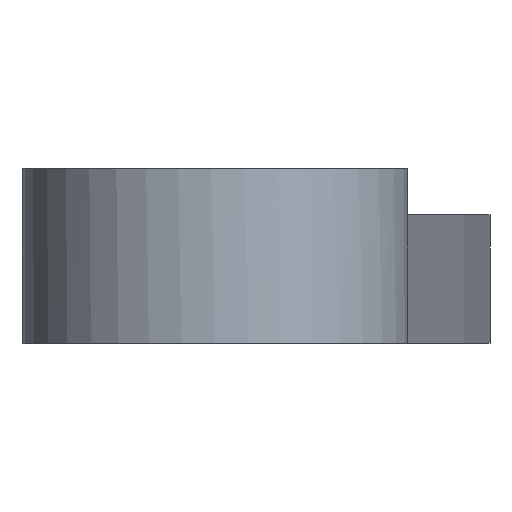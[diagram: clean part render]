
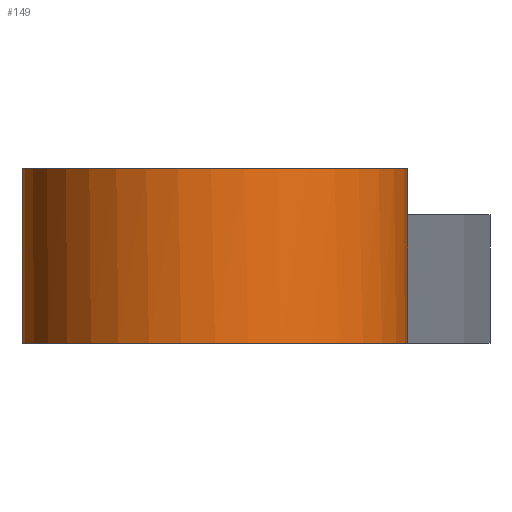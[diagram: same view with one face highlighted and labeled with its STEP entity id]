
A CAD part, front view. The second image highlights one B-rep face of the part: STEP entity #149.
In plain terms, the highlighted cylindrical face has radius 7.5 mm (diameter 15 mm), a partial arc.
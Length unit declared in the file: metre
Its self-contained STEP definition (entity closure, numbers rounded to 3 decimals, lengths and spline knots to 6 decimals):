
#18=LINE('',#260,#23);
#19=LINE('',#265,#24);
#20=LINE('',#270,#25);
#23=VECTOR('',#206,1.);
#24=VECTOR('',#209,1.);
#25=VECTOR('',#216,1.);
#36=ORIENTED_EDGE('',*,*,#73,.T.);
#37=ORIENTED_EDGE('',*,*,#74,.T.);
#38=ORIENTED_EDGE('',*,*,#70,.F.);
#39=ORIENTED_EDGE('',*,*,#75,.F.);
#40=ORIENTED_EDGE('',*,*,#68,.F.);
#41=ORIENTED_EDGE('',*,*,#76,.T.);
#68=EDGE_CURVE('',#87,#88,#18,.T.);
#70=EDGE_CURVE('',#89,#90,#19,.T.);
#73=EDGE_CURVE('',#91,#92,#20,.T.);
#74=EDGE_CURVE('',#92,#90,#102,.T.);
#75=EDGE_CURVE('',#88,#89,#103,.T.);
#76=EDGE_CURVE('',#87,#91,#104,.T.);
#87=VERTEX_POINT('',#261);
#88=VERTEX_POINT('',#262);
#89=VERTEX_POINT('',#264);
#90=VERTEX_POINT('',#266);
#91=VERTEX_POINT('',#271);
#92=VERTEX_POINT('',#272);
#102=CIRCLE('',#178,0.0075);
#103=CIRCLE('',#179,0.0075);
#104=CIRCLE('',#180,0.0075);
#113=EDGE_LOOP('',(#36,#37,#38,#39,#40,#41));
#128=FACE_BOUND('',#113,.T.);
#143=CYLINDRICAL_SURFACE('',#177,0.0075);
#149=ADVANCED_FACE('',(#128),#143,.T.);
#177=AXIS2_PLACEMENT_3D('',#269,#214,#215);
#178=AXIS2_PLACEMENT_3D('',#273,#217,#218);
#179=AXIS2_PLACEMENT_3D('',#274,#219,#220);
#180=AXIS2_PLACEMENT_3D('',#275,#221,#222);
#206=DIRECTION('',(0.,0.,1.));
#209=DIRECTION('',(0.,0.,-1.));
#214=DIRECTION('',(0.,0.,1.));
#215=DIRECTION('',(1.,0.,0.));
#216=DIRECTION('',(0.,0.,1.));
#217=DIRECTION('',(0.,0.,1.));
#218=DIRECTION('',(1.,0.,0.));
#219=DIRECTION('',(0.,0.,1.));
#220=DIRECTION('',(1.,0.,0.));
#221=DIRECTION('',(0.,0.,1.));
#222=DIRECTION('',(1.,0.,0.));
#260=CARTESIAN_POINT('',(0.035,-0.0355,-0.016));
#261=CARTESIAN_POINT('',(0.035,-0.0355,-0.016));
#262=CARTESIAN_POINT('',(0.035,-0.0355,-0.0092));
#264=CARTESIAN_POINT('',(0.036293,-0.03129,-0.0092));
#265=CARTESIAN_POINT('',(0.036293,-0.03129,-0.0092));
#266=CARTESIAN_POINT('',(0.036293,-0.03129,-0.011));
#269=CARTESIAN_POINT('',(0.0425,-0.0355,-0.016));
#270=CARTESIAN_POINT('',(0.05,-0.0355,-0.016));
#271=CARTESIAN_POINT('',(0.05,-0.0355,-0.016));
#272=CARTESIAN_POINT('',(0.05,-0.0355,-0.011));
#273=CARTESIAN_POINT('',(0.0425,-0.0355,-0.011));
#274=CARTESIAN_POINT('',(0.0425,-0.0355,-0.0092));
#275=CARTESIAN_POINT('',(0.0425,-0.0355,-0.016));
